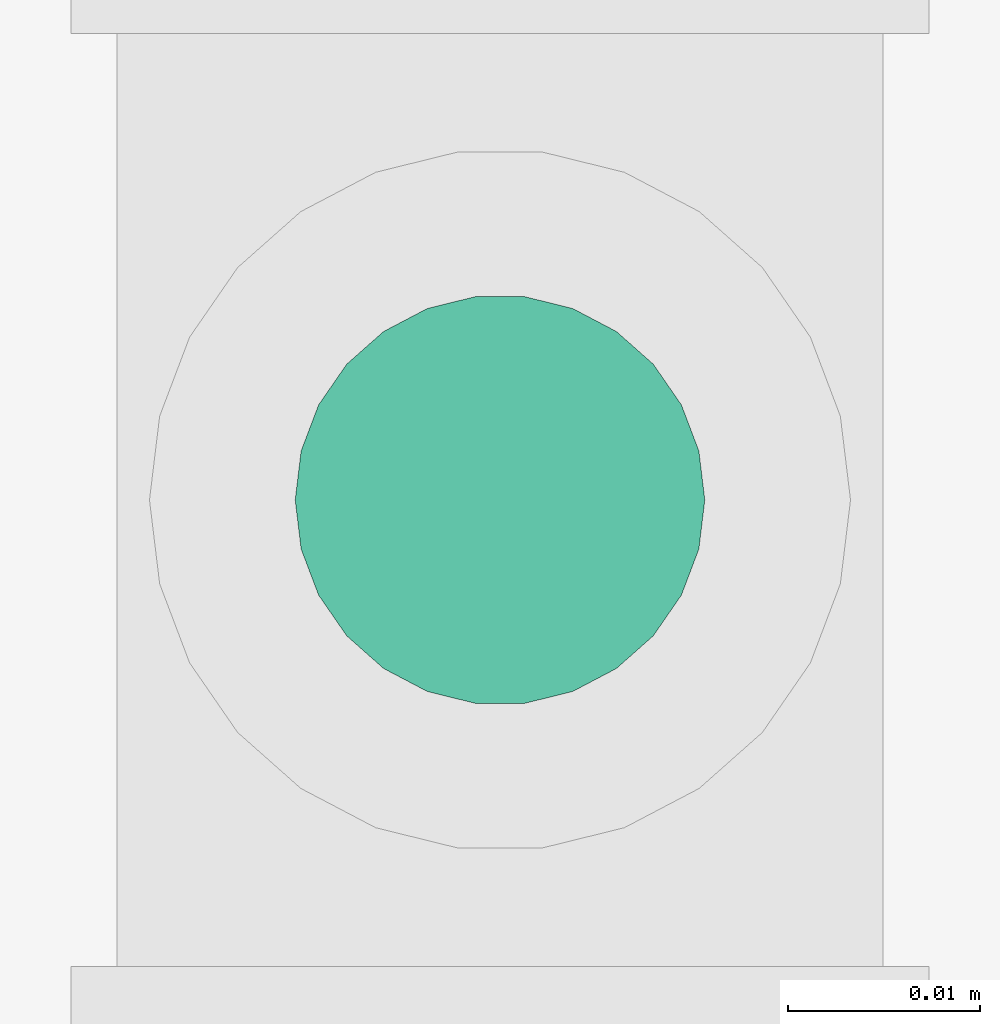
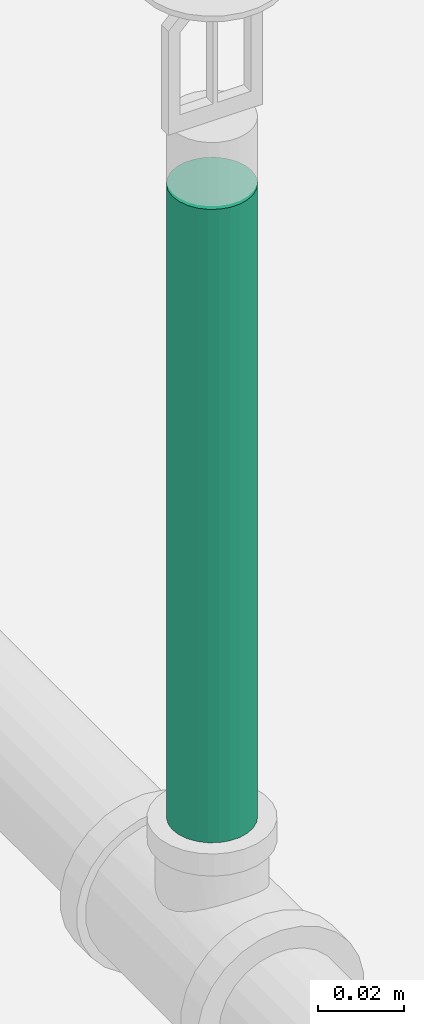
# One storey, part 47 of 108: 1 pipe segment.
"""IFC4 building model written with IfcOpenShell, lengths in feet."""

from ifc_helpers import new_model, entity, si_unit, converted_unit, derived_unit, direction, frame, frame_2d, origin, place, context, subcontext, project, spatial, circle, extrude, type_object, element, save


model = new_model("IFC4")

# Units and contexts
model_context = context("Model", 3, precision=0.0001, world=origin(), true_north=direction((6.12303176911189e-17, 1.0)))
body_context = subcontext(model_context, "Body", "Model", "MODEL_VIEW")
ifc_project = project(units=[converted_unit("LENGTHUNIT", "FOOT", entity("IfcRatioMeasure", 0.3048), si_unit("LENGTHUNIT", "METRE"), dimensions=[1, 0, 0, 0, 0, 0, 0]), converted_unit("AREAUNIT", "SQUARE FOOT", entity("IfcRatioMeasure", 0.09290304), si_unit("AREAUNIT", "SQUARE_METRE"), dimensions=[2, 0, 0, 0, 0, 0, 0]), converted_unit("VOLUMEUNIT", "CUBIC FOOT", entity("IfcRatioMeasure", 0.028316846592), si_unit("VOLUMEUNIT", "CUBIC_METRE"), dimensions=[3, 0, 0, 0, 0, 0, 0]), converted_unit("PLANEANGLEUNIT", "DEGREE", entity("IfcRatioMeasure", 0.0174532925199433), si_unit("PLANEANGLEUNIT", "RADIAN"), dimensions=[0, 0, 0, 0, 0, 0, 0]), si_unit("MASSUNIT", "GRAM", prefix="KILO"), derived_unit("MASSDENSITYUNIT", [(si_unit("MASSUNIT", "GRAM", prefix="KILO"), 1), (si_unit("LENGTHUNIT", "METRE"), -3)]), si_unit("TIMEUNIT", "SECOND"), si_unit("FREQUENCYUNIT", "HERTZ"), si_unit("THERMODYNAMICTEMPERATUREUNIT", "DEGREE_CELSIUS"), derived_unit("THERMALTRANSMITTANCEUNIT", [(si_unit("MASSUNIT", "GRAM", prefix="KILO"), 1), (si_unit("THERMODYNAMICTEMPERATUREUNIT", "KELVIN"), -1), (si_unit("TIMEUNIT", "SECOND"), -3)]), derived_unit("VOLUMETRICFLOWRATEUNIT", [(si_unit("LENGTHUNIT", "METRE"), 3), (si_unit("TIMEUNIT", "SECOND"), -1)]), si_unit("ELECTRICCURRENTUNIT", "AMPERE"), si_unit("ELECTRICVOLTAGEUNIT", "VOLT"), si_unit("POWERUNIT", "WATT"), si_unit("FORCEUNIT", "NEWTON"), si_unit("ILLUMINANCEUNIT", "LUX"), si_unit("LUMINOUSFLUXUNIT", "LUMEN"), si_unit("LUMINOUSINTENSITYUNIT", "CANDELA"), derived_unit("USERDEFINED", [(si_unit("MASSUNIT", "GRAM", prefix="KILO"), -1), (si_unit("LENGTHUNIT", "METRE"), -2), (si_unit("TIMEUNIT", "SECOND"), 3), (si_unit("LUMINOUSFLUXUNIT", "LUMEN"), 1)]), derived_unit("LINEARVELOCITYUNIT", [(si_unit("LENGTHUNIT", "METRE"), 1), (si_unit("TIMEUNIT", "SECOND"), -1)]), si_unit("PRESSUREUNIT", "PASCAL"), derived_unit("USERDEFINED", [(si_unit("LENGTHUNIT", "METRE"), -2), (si_unit("MASSUNIT", "GRAM", prefix="KILO"), 1), (si_unit("TIMEUNIT", "SECOND"), -2)])], contexts=[model_context])

# Site, building, storey
site_placement = place(None, origin())
site = spatial("IfcSite", under=ifc_project, at=site_placement, Name="Default", CompositionType="ELEMENT")
building_placement = place(site_placement, origin())
building = spatial("IfcBuilding", under=site, at=building_placement, CompositionType="ELEMENT")
storey_placement = place(building_placement, frame((0.0, 0.0, 168.0)))
storey = spatial("IfcBuildingStorey", under=building, at=storey_placement, Name="Level 15", CompositionType="ELEMENT", Elevation=168.0)

# Pipe segment
pipe_segment_type = type_object("IfcPipeSegmentType", Name="Pipe Types:Fire Prot Sched 10 Main", PredefinedType="NOTDEFINED")
pipe_segment_placement = place(storey_placement, frame((-25.8009559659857, 0.47818579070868, 10.3248031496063)))
element("IfcPipeSegment", 1, at=pipe_segment_placement, inside=storey, type_object=pipe_segment_type, Name="Pipe Types:Fire Prot Sched 10 Main", ObjectType="Pipe Types:Fire Prot Sched 10 Main", PredefinedType="NOTDEFINED", context=body_context, shape_type="SweptSolid", body=[
    extrude(circle(Radius=0.035, at=frame_2d((0.0, -1.11022302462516e-16), x_axis=(1.0, 0.0))), frame((0.0402338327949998, 0.0402338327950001, 0.0)), (0.0, 0.0, 1.0), 0.591863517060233),
])

save(model, "model.ifc")
